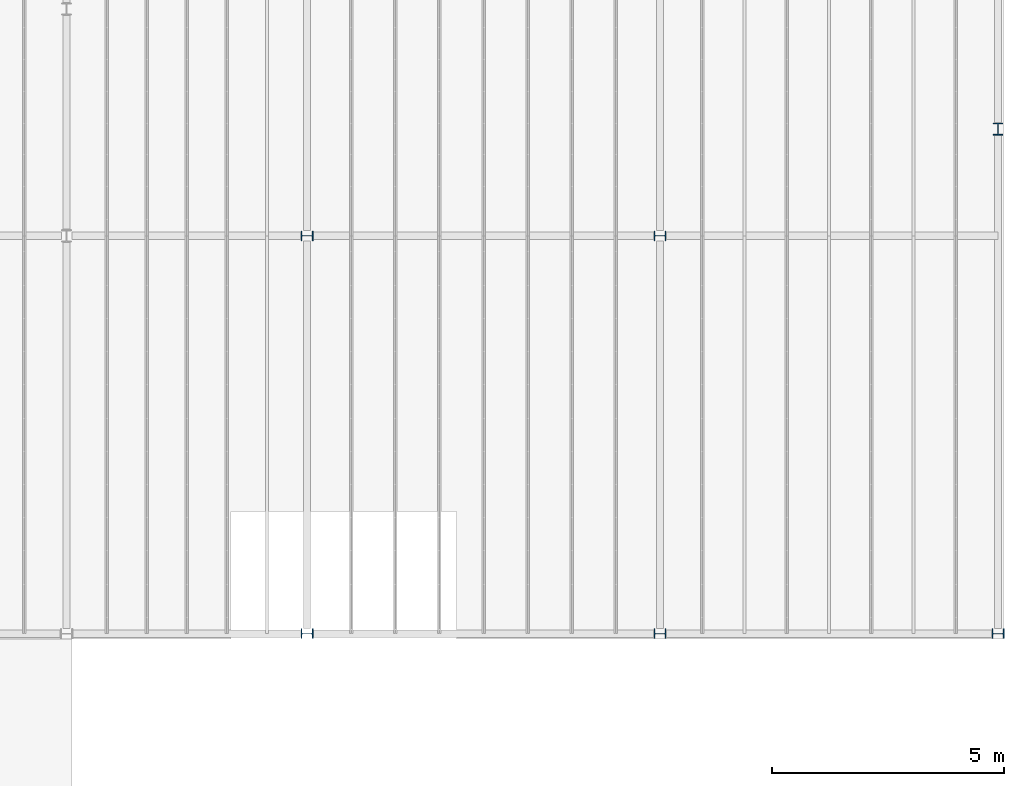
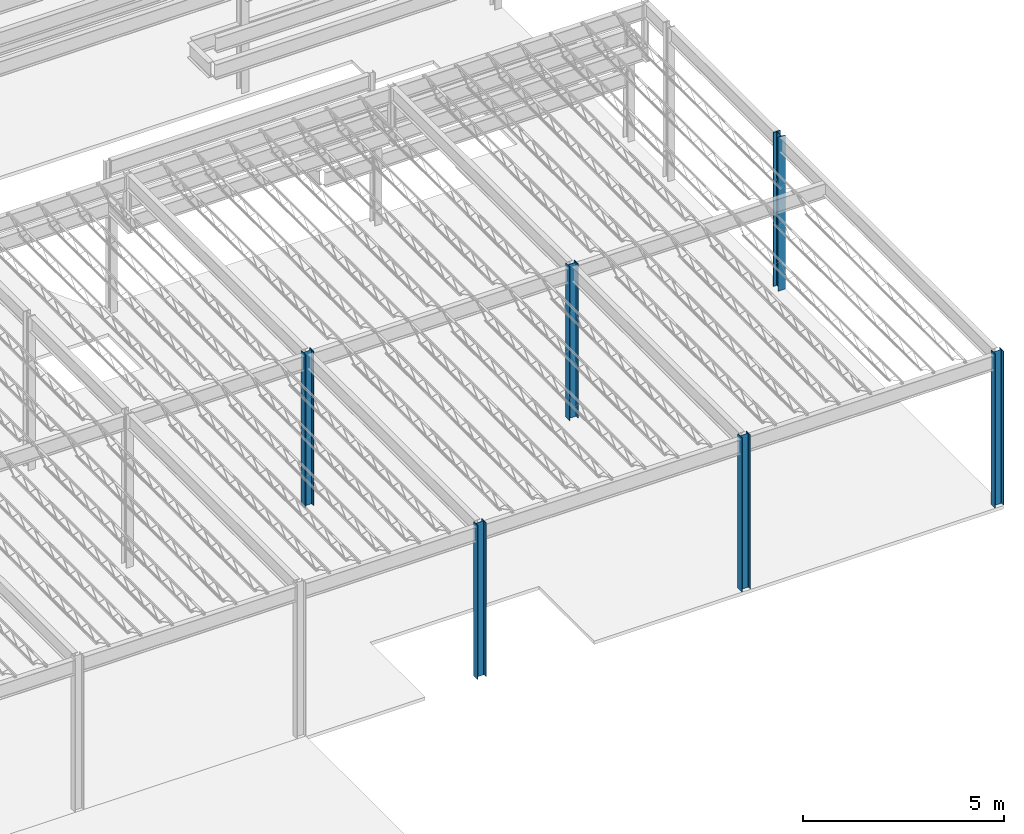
# One storey, part 3 of 119: 6 columns.
"""IFC2X3 building model written with IfcOpenShell, lengths in metres."""

from ifc_helpers import new_model, entity, si_unit, converted_unit, frame, frame_2d, origin, place, context, project, spatial, polyline, circle_curve, parameter, trimmed, segment, composite_curve, outline, extrude, source, transform, mapped, material, type_object, type_shapes, element, save


model = new_model("IFC2X3")

# Units and contexts
model_context = context("Model", 3, precision=1e-09, world=origin())
plan_context = context("Plan", 3, precision=1e-09, world=origin())
ifc_project = project(units=[si_unit("LENGTHUNIT", "METRE"), si_unit("AREAUNIT", "SQUARE_METRE"), si_unit("VOLUMEUNIT", "CUBIC_METRE"), converted_unit("PLANEANGLEUNIT", "DEGREE", entity("IfcRatioMeasure", 0.01745329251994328), si_unit("PLANEANGLEUNIT", "RADIAN"), dimensions=[0, 0, 0, 0, 0, 0, 0]), si_unit("TIMEUNIT", "SECOND")], contexts=[model_context, plan_context])

# Site, building, storey
site_placement = place(None, origin())
site = spatial("IfcSite", under=ifc_project, at=site_placement, Name="Default", CompositionType="ELEMENT")
building_placement = place(site_placement, origin())
building = spatial("IfcBuilding", under=site, at=building_placement, CompositionType="ELEMENT")
storey_placement = place(building_placement, frame((0.0, 0.0, 4.570000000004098)))
storey = spatial("IfcBuildingStorey", under=building, at=storey_placement, Name="Second Floor", CompositionType="ELEMENT", Elevation=4.570000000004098)

# Columns
ifc_material = material(Name="Metal - Steel - 345 MPa")
column_type = type_object("IfcColumnType", Name="W250X67", PredefinedType="COLUMN")
shared_shape = source(origin(), model_context, "Body", "SweptSolid", [
    extrude(outline(composite_curve([segment(polyline([(-0.102, -0.1285), (0.102, -0.1285)]), True, "CONTINUOUS"), segment(polyline([(0.102, -0.1285), (0.102, -0.1128)]), True, "CONTINUOUS"), segment(polyline([(0.102, -0.1128), (0.02174999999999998, -0.1128)]), True, "CONTINUOUS"), segment(trimmed(circle_curve(frame_2d((0.02174999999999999, -0.09549999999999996), x_axis=(-1.0, 0.0)), 0.0173), [parameter(4.071109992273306e-13)], [parameter(90.00000000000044)], True, "PARAMETER"), False, "CONTINUOUS"), segment(polyline([(0.004449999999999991, -0.09549999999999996), (0.004449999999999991, 0.09549999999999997)]), True, "CONTINUOUS"), segment(trimmed(circle_curve(frame_2d((0.02174999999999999, 0.09549999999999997), x_axis=(-1.0, 0.0)), 0.0173), [parameter(270.0000000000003)], [parameter(3.562221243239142e-13)], True, "PARAMETER"), False, "CONTINUOUS"), segment(polyline([(0.02174999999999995, 0.1128), (0.102, 0.1128)]), True, "CONTINUOUS"), segment(polyline([(0.102, 0.1128), (0.102, 0.1285)]), True, "CONTINUOUS"), segment(polyline([(0.102, 0.1285), (-0.102, 0.1285)]), True, "CONTINUOUS"), segment(polyline([(-0.102, 0.1285), (-0.102, 0.1128)]), True, "CONTINUOUS"), segment(polyline([(-0.102, 0.1128), (-0.02174999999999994, 0.1128)]), True, "CONTINUOUS"), segment(trimmed(circle_curve(frame_2d((-0.02175000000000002, 0.09549999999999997), x_axis=(-1.0, 0.0)), 0.0173), [parameter(179.9999999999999)], [parameter(269.9999999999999)], True, "PARAMETER"), False, "CONTINUOUS"), segment(polyline([(-0.004450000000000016, 0.09550000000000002), (-0.004450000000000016, -0.09549999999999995)]), True, "CONTINUOUS"), segment(trimmed(circle_curve(frame_2d((-0.02175000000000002, -0.09549999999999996), x_axis=(-1.0, 0.0)), 0.0173), [parameter(90.00000000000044)], [parameter(180.0000000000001)], True, "PARAMETER"), False, "CONTINUOUS"), segment(polyline([(-0.02175000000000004, -0.1128), (-0.102, -0.1128)]), True, "CONTINUOUS"), segment(polyline([(-0.102, -0.1128), (-0.102, -0.1285)]), True, "CONTINUOUS")], self_intersect=False)), frame((0.0, 0.0, 4.570000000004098), z_axis=(0.0, 0.0, 1.0), x_axis=(-1.0, 0.0, 0.0)), (0.0, 0.0, 1.0), 4.679999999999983),
])
type_shapes(column_type, [shared_shape])
for number, where, z_axis, x_axis in (
    (1, (-14.87997499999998, 10.03999999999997, -4.570000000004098), (0.0, 0.0, 1.0), (0.0, -1.0, 0.0)),
    (2, (-7.280000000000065, 10.03999999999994, -4.570000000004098), (0.0, 0.0, 1.0), (0.0, -1.0, 0.0)),
    (3, (0.0, 10.03999999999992, -4.570000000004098), (0.0, 0.0, 1.0), (0.0, 1.0, 0.0)),
    (4, (-7.280000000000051, 18.61, -4.570000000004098), (0.0, 0.0, 1.0), (0.0, 1.0, 0.0)),
    (5, (0.0, 20.90889399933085, -4.570000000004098), (0.0, 0.0, 1.0), (-1.0, 0.0, 0.0)),
    (6, (-14.87997499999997, 18.61000000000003, -4.570000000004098), (0.0, 0.0, 1.0), (0.0, 1.0, 0.0)),
):
    element("IfcColumn", number, at=place(storey_placement, frame(where, z_axis=z_axis, x_axis=x_axis)), inside=storey, type_object=column_type, material=ifc_material, Name="M_W-Wide Flange-Column:W250X67:W250X67", ObjectType="W250X67", context=model_context, shape_type="MappedRepresentation", body=[
        mapped(shared_shape, transform((0.0, 0.0, 0.0), scale=1.0)),
    ])

save(model, "model.ifc")
